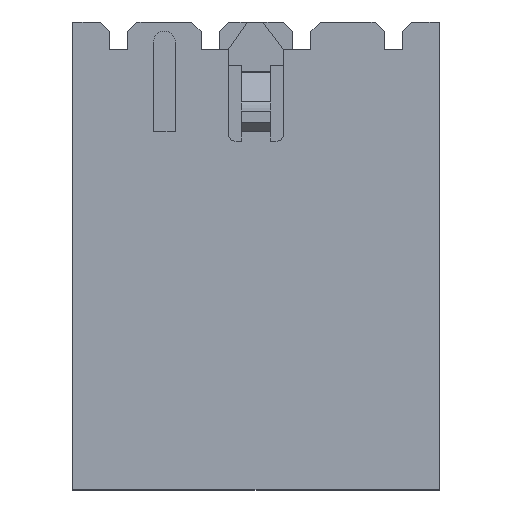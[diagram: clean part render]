
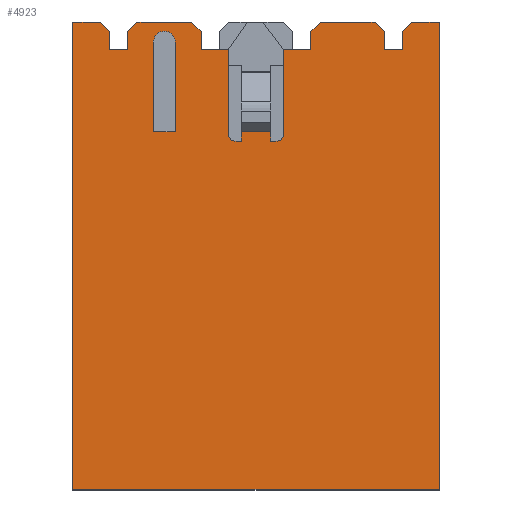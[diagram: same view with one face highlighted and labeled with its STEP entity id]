
A CAD part, front view. The second image highlights one B-rep face of the part: STEP entity #4923.
In plain terms, the highlighted planar face has unit normal (0, -1, 0).
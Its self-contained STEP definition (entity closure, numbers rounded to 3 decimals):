
#46=CIRCLE('',#5182,0.6);
#47=CIRCLE('',#5183,0.35);
#48=CIRCLE('',#5184,0.35);
#231=ORIENTED_EDGE('',*,*,#1710,.T.);
#232=ORIENTED_EDGE('',*,*,#1711,.T.);
#233=ORIENTED_EDGE('',*,*,#1712,.T.);
#234=ORIENTED_EDGE('',*,*,#1713,.T.);
#235=ORIENTED_EDGE('',*,*,#1714,.T.);
#236=ORIENTED_EDGE('',*,*,#1715,.T.);
#237=ORIENTED_EDGE('',*,*,#1716,.T.);
#238=ORIENTED_EDGE('',*,*,#1717,.T.);
#239=ORIENTED_EDGE('',*,*,#1718,.T.);
#240=ORIENTED_EDGE('',*,*,#1719,.T.);
#241=ORIENTED_EDGE('',*,*,#1720,.T.);
#242=ORIENTED_EDGE('',*,*,#1721,.T.);
#243=ORIENTED_EDGE('',*,*,#1722,.T.);
#244=ORIENTED_EDGE('',*,*,#1723,.T.);
#245=ORIENTED_EDGE('',*,*,#1724,.T.);
#246=ORIENTED_EDGE('',*,*,#1725,.T.);
#247=ORIENTED_EDGE('',*,*,#1578,.F.);
#248=ORIENTED_EDGE('',*,*,#1726,.F.);
#249=ORIENTED_EDGE('',*,*,#1727,.T.);
#250=ORIENTED_EDGE('',*,*,#1728,.T.);
#251=ORIENTED_EDGE('',*,*,#1729,.T.);
#252=ORIENTED_EDGE('',*,*,#1730,.T.);
#253=ORIENTED_EDGE('',*,*,#1731,.T.);
#254=ORIENTED_EDGE('',*,*,#1732,.T.);
#255=ORIENTED_EDGE('',*,*,#1733,.T.);
#256=ORIENTED_EDGE('',*,*,#1734,.T.);
#257=ORIENTED_EDGE('',*,*,#1735,.T.);
#258=ORIENTED_EDGE('',*,*,#1736,.T.);
#259=ORIENTED_EDGE('',*,*,#1737,.T.);
#260=ORIENTED_EDGE('',*,*,#1738,.T.);
#261=ORIENTED_EDGE('',*,*,#1739,.T.);
#262=ORIENTED_EDGE('',*,*,#1740,.F.);
#263=ORIENTED_EDGE('',*,*,#1741,.T.);
#264=ORIENTED_EDGE('',*,*,#1742,.T.);
#265=ORIENTED_EDGE('',*,*,#1743,.T.);
#266=ORIENTED_EDGE('',*,*,#1744,.T.);
#1578=EDGE_CURVE('',#2324,#2325,#2806,.T.);
#1710=EDGE_CURVE('',#2443,#2444,#2932,.T.);
#1711=EDGE_CURVE('',#2444,#2445,#2933,.T.);
#1712=EDGE_CURVE('',#2445,#2446,#46,.T.);
#1713=EDGE_CURVE('',#2446,#2443,#2934,.T.);
#1714=EDGE_CURVE('',#2447,#2448,#2935,.T.);
#1715=EDGE_CURVE('',#2448,#2449,#2936,.T.);
#1716=EDGE_CURVE('',#2449,#2450,#2937,.T.);
#1717=EDGE_CURVE('',#2450,#2451,#2938,.T.);
#1718=EDGE_CURVE('',#2451,#2452,#2939,.T.);
#1719=EDGE_CURVE('',#2452,#2453,#2940,.T.);
#1720=EDGE_CURVE('',#2453,#2454,#2941,.T.);
#1721=EDGE_CURVE('',#2454,#2455,#2942,.T.);
#1722=EDGE_CURVE('',#2455,#2456,#2943,.T.);
#1723=EDGE_CURVE('',#2456,#2457,#2944,.T.);
#1724=EDGE_CURVE('',#2457,#2458,#2945,.T.);
#1725=EDGE_CURVE('',#2458,#2325,#2946,.T.);
#1726=EDGE_CURVE('',#2459,#2324,#2947,.T.);
#1727=EDGE_CURVE('',#2459,#2460,#2948,.T.);
#1728=EDGE_CURVE('',#2460,#2461,#2949,.T.);
#1729=EDGE_CURVE('',#2461,#2462,#2950,.T.);
#1730=EDGE_CURVE('',#2462,#2463,#2951,.T.);
#1731=EDGE_CURVE('',#2463,#2464,#2952,.T.);
#1732=EDGE_CURVE('',#2464,#2465,#2953,.T.);
#1733=EDGE_CURVE('',#2465,#2466,#2954,.T.);
#1734=EDGE_CURVE('',#2466,#2467,#2955,.T.);
#1735=EDGE_CURVE('',#2467,#2468,#2956,.T.);
#1736=EDGE_CURVE('',#2468,#2469,#2957,.T.);
#1737=EDGE_CURVE('',#2469,#2470,#2958,.T.);
#1738=EDGE_CURVE('',#2470,#2471,#47,.T.);
#1739=EDGE_CURVE('',#2471,#2472,#2959,.T.);
#1740=EDGE_CURVE('',#2473,#2472,#2960,.T.);
#1741=EDGE_CURVE('',#2473,#2474,#2961,.T.);
#1742=EDGE_CURVE('',#2474,#2475,#2962,.T.);
#1743=EDGE_CURVE('',#2475,#2476,#2963,.T.);
#1744=EDGE_CURVE('',#2476,#2447,#48,.T.);
#2324=VERTEX_POINT('',#6721);
#2325=VERTEX_POINT('',#6723);
#2443=VERTEX_POINT('',#6990);
#2444=VERTEX_POINT('',#6991);
#2445=VERTEX_POINT('',#6993);
#2446=VERTEX_POINT('',#6995);
#2447=VERTEX_POINT('',#6998);
#2448=VERTEX_POINT('',#6999);
#2449=VERTEX_POINT('',#7001);
#2450=VERTEX_POINT('',#7003);
#2451=VERTEX_POINT('',#7005);
#2452=VERTEX_POINT('',#7007);
#2453=VERTEX_POINT('',#7009);
#2454=VERTEX_POINT('',#7011);
#2455=VERTEX_POINT('',#7013);
#2456=VERTEX_POINT('',#7015);
#2457=VERTEX_POINT('',#7017);
#2458=VERTEX_POINT('',#7019);
#2459=VERTEX_POINT('',#7022);
#2460=VERTEX_POINT('',#7024);
#2461=VERTEX_POINT('',#7026);
#2462=VERTEX_POINT('',#7028);
#2463=VERTEX_POINT('',#7030);
#2464=VERTEX_POINT('',#7032);
#2465=VERTEX_POINT('',#7034);
#2466=VERTEX_POINT('',#7036);
#2467=VERTEX_POINT('',#7038);
#2468=VERTEX_POINT('',#7040);
#2469=VERTEX_POINT('',#7042);
#2470=VERTEX_POINT('',#7044);
#2471=VERTEX_POINT('',#7046);
#2472=VERTEX_POINT('',#7048);
#2473=VERTEX_POINT('',#7050);
#2474=VERTEX_POINT('',#7052);
#2475=VERTEX_POINT('',#7054);
#2476=VERTEX_POINT('',#7056);
#2806=LINE('',#6722,#3511);
#2932=LINE('',#6989,#3637);
#2933=LINE('',#6992,#3638);
#2934=LINE('',#6996,#3639);
#2935=LINE('',#6997,#3640);
#2936=LINE('',#7000,#3641);
#2937=LINE('',#7002,#3642);
#2938=LINE('',#7004,#3643);
#2939=LINE('',#7006,#3644);
#2940=LINE('',#7008,#3645);
#2941=LINE('',#7010,#3646);
#2942=LINE('',#7012,#3647);
#2943=LINE('',#7014,#3648);
#2944=LINE('',#7016,#3649);
#2945=LINE('',#7018,#3650);
#2946=LINE('',#7020,#3651);
#2947=LINE('',#7021,#3652);
#2948=LINE('',#7023,#3653);
#2949=LINE('',#7025,#3654);
#2950=LINE('',#7027,#3655);
#2951=LINE('',#7029,#3656);
#2952=LINE('',#7031,#3657);
#2953=LINE('',#7033,#3658);
#2954=LINE('',#7035,#3659);
#2955=LINE('',#7037,#3660);
#2956=LINE('',#7039,#3661);
#2957=LINE('',#7041,#3662);
#2958=LINE('',#7043,#3663);
#2959=LINE('',#7047,#3664);
#2960=LINE('',#7049,#3665);
#2961=LINE('',#7051,#3666);
#2962=LINE('',#7053,#3667);
#2963=LINE('',#7055,#3668);
#3511=VECTOR('',#5451,1000.);
#3637=VECTOR('',#5623,1000.);
#3638=VECTOR('',#5624,1000.);
#3639=VECTOR('',#5627,1000.);
#3640=VECTOR('',#5628,1000.);
#3641=VECTOR('',#5629,1000.);
#3642=VECTOR('',#5630,1000.);
#3643=VECTOR('',#5631,1000.);
#3644=VECTOR('',#5632,1000.);
#3645=VECTOR('',#5633,1000.);
#3646=VECTOR('',#5634,1000.);
#3647=VECTOR('',#5635,1000.);
#3648=VECTOR('',#5636,1000.);
#3649=VECTOR('',#5637,1000.);
#3650=VECTOR('',#5638,1000.);
#3651=VECTOR('',#5639,1000.);
#3652=VECTOR('',#5640,1000.);
#3653=VECTOR('',#5641,1000.);
#3654=VECTOR('',#5642,1000.);
#3655=VECTOR('',#5643,1000.);
#3656=VECTOR('',#5644,1000.);
#3657=VECTOR('',#5645,1000.);
#3658=VECTOR('',#5646,1000.);
#3659=VECTOR('',#5647,1000.);
#3660=VECTOR('',#5648,1000.);
#3661=VECTOR('',#5649,1000.);
#3662=VECTOR('',#5650,1000.);
#3663=VECTOR('',#5651,1000.);
#3664=VECTOR('',#5654,1000.);
#3665=VECTOR('',#5655,1000.);
#3666=VECTOR('',#5656,1000.);
#3667=VECTOR('',#5657,1000.);
#3668=VECTOR('',#5658,1000.);
#4224=EDGE_LOOP('',(#231,#232,#233,#234));
#4225=EDGE_LOOP('',(#235,#236,#237,#238,#239,#240,#241,#242,#243,#244,#245,
#246,#247,#248,#249,#250,#251,#252,#253,#254,#255,#256,#257,#258,#259,#260,
#261,#262,#263,#264,#265,#266));
#4462=FACE_BOUND('',#4224,.T.);
#4463=FACE_BOUND('',#4225,.T.);
#4700=PLANE('',#5181);
#4923=ADVANCED_FACE('',(#4462,#4463),#4700,.F.);
#5181=AXIS2_PLACEMENT_3D('',#6988,#5621,#5622);
#5182=AXIS2_PLACEMENT_3D('',#6994,#5625,#5626);
#5183=AXIS2_PLACEMENT_3D('',#7045,#5652,#5653);
#5184=AXIS2_PLACEMENT_3D('',#7057,#5659,#5660);
#5451=DIRECTION('',(-1.,0.,0.));
#5621=DIRECTION('',(0.,1.,0.));
#5622=DIRECTION('',(0.,0.,1.));
#5623=DIRECTION('',(-1.,0.,0.));
#5624=DIRECTION('',(0.,0.,1.));
#5625=DIRECTION('',(0.,1.,0.));
#5626=DIRECTION('',(1.,0.,0.));
#5627=DIRECTION('',(0.,0.,-1.));
#5628=DIRECTION('',(0.,0.,1.));
#5629=DIRECTION('',(-1.,0.,0.));
#5630=DIRECTION('',(0.,0.,1.));
#5631=DIRECTION('',(-0.707,0.,0.707));
#5632=DIRECTION('',(-1.,0.,0.));
#5633=DIRECTION('',(-0.707,0.,-0.707));
#5634=DIRECTION('',(0.,0.,-1.));
#5635=DIRECTION('',(-1.,0.,0.));
#5636=DIRECTION('',(0.,0.,1.));
#5637=DIRECTION('',(-0.707,0.,0.707));
#5638=DIRECTION('',(-1.,0.,0.));
#5639=DIRECTION('',(0.,0.,-1.));
#5640=DIRECTION('',(0.,0.,-1.));
#5641=DIRECTION('',(-1.,0.,0.));
#5642=DIRECTION('',(-0.707,0.,-0.707));
#5643=DIRECTION('',(0.,0.,-1.));
#5644=DIRECTION('',(-1.,0.,0.));
#5645=DIRECTION('',(0.,0.,1.));
#5646=DIRECTION('',(-0.707,0.,0.707));
#5647=DIRECTION('',(-1.,0.,0.));
#5648=DIRECTION('',(-0.707,0.,-0.707));
#5649=DIRECTION('',(0.,0.,-1.));
#5650=DIRECTION('',(-1.,0.,0.));
#5651=DIRECTION('',(0.,0.,-1.));
#5652=DIRECTION('',(0.,1.,0.));
#5653=DIRECTION('',(1.,0.,0.));
#5654=DIRECTION('',(-1.,0.,0.));
#5655=DIRECTION('',(0.,0.,-1.));
#5656=DIRECTION('',(-1.,0.,0.));
#5657=DIRECTION('',(0.,0.,-1.));
#5658=DIRECTION('',(-1.,0.,0.));
#5659=DIRECTION('',(0.,1.,0.));
#5660=DIRECTION('',(1.,0.,0.));
#6721=CARTESIAN_POINT('',(10.,0.,0.));
#6722=CARTESIAN_POINT('',(10.,0.,0.));
#6723=CARTESIAN_POINT('',(-10.,0.,0.));
#6988=CARTESIAN_POINT('',(10.,0.,25.5));
#6989=CARTESIAN_POINT('',(-4.4,0.,19.5));
#6990=CARTESIAN_POINT('',(-4.4,0.,19.5));
#6991=CARTESIAN_POINT('',(-5.6,0.,19.5));
#6992=CARTESIAN_POINT('',(-5.6,0.,19.5));
#6993=CARTESIAN_POINT('',(-5.6,0.,24.4));
#6994=CARTESIAN_POINT('',(-5.,0.,24.4));
#6995=CARTESIAN_POINT('',(-4.4,0.,24.4));
#6996=CARTESIAN_POINT('',(-4.4,0.,24.4));
#6997=CARTESIAN_POINT('',(-1.5,0.,19.35));
#6998=CARTESIAN_POINT('',(-1.5,0.,19.35));
#6999=CARTESIAN_POINT('',(-1.5,0.,24.));
#7000=CARTESIAN_POINT('',(-2.,0.,24.));
#7001=CARTESIAN_POINT('',(-3.,0.,24.));
#7002=CARTESIAN_POINT('',(-3.,0.,24.));
#7003=CARTESIAN_POINT('',(-3.,0.,25.));
#7004=CARTESIAN_POINT('',(-3.,0.,25.));
#7005=CARTESIAN_POINT('',(-3.5,0.,25.5));
#7006=CARTESIAN_POINT('',(10.,0.,25.5));
#7007=CARTESIAN_POINT('',(-6.5,0.,25.5));
#7008=CARTESIAN_POINT('',(-6.5,0.,25.5));
#7009=CARTESIAN_POINT('',(-7.,0.,25.));
#7010=CARTESIAN_POINT('',(-7.,0.,25.));
#7011=CARTESIAN_POINT('',(-7.,0.,24.));
#7012=CARTESIAN_POINT('',(-7.,0.,24.));
#7013=CARTESIAN_POINT('',(-8.,0.,24.));
#7014=CARTESIAN_POINT('',(-8.,0.,24.));
#7015=CARTESIAN_POINT('',(-8.,0.,25.));
#7016=CARTESIAN_POINT('',(-8.,0.,25.));
#7017=CARTESIAN_POINT('',(-8.5,0.,25.5));
#7018=CARTESIAN_POINT('',(10.,0.,25.5));
#7019=CARTESIAN_POINT('',(-10.,0.,25.5));
#7020=CARTESIAN_POINT('',(-10.,0.,25.5));
#7021=CARTESIAN_POINT('',(10.,0.,25.5));
#7022=CARTESIAN_POINT('',(10.,0.,25.5));
#7023=CARTESIAN_POINT('',(10.,0.,25.5));
#7024=CARTESIAN_POINT('',(8.5,0.,25.5));
#7025=CARTESIAN_POINT('',(8.5,0.,25.5));
#7026=CARTESIAN_POINT('',(8.,0.,25.));
#7027=CARTESIAN_POINT('',(8.,0.,25.));
#7028=CARTESIAN_POINT('',(8.,0.,24.));
#7029=CARTESIAN_POINT('',(8.,0.,24.));
#7030=CARTESIAN_POINT('',(7.,0.,24.));
#7031=CARTESIAN_POINT('',(7.,0.,24.));
#7032=CARTESIAN_POINT('',(7.,0.,25.));
#7033=CARTESIAN_POINT('',(7.,0.,25.));
#7034=CARTESIAN_POINT('',(6.5,0.,25.5));
#7035=CARTESIAN_POINT('',(10.,0.,25.5));
#7036=CARTESIAN_POINT('',(3.5,0.,25.5));
#7037=CARTESIAN_POINT('',(3.5,0.,25.5));
#7038=CARTESIAN_POINT('',(3.,0.,25.));
#7039=CARTESIAN_POINT('',(3.,0.,25.));
#7040=CARTESIAN_POINT('',(3.,0.,24.));
#7041=CARTESIAN_POINT('',(3.,0.,24.));
#7042=CARTESIAN_POINT('',(1.5,0.,24.));
#7043=CARTESIAN_POINT('',(1.5,0.,24.));
#7044=CARTESIAN_POINT('',(1.5,0.,19.35));
#7045=CARTESIAN_POINT('',(1.15,0.,19.35));
#7046=CARTESIAN_POINT('',(1.15,0.,19.));
#7047=CARTESIAN_POINT('',(1.15,0.,19.));
#7048=CARTESIAN_POINT('',(0.8,0.,19.));
#7049=CARTESIAN_POINT('',(0.8,0.,19.5));
#7050=CARTESIAN_POINT('',(0.8,0.,19.5));
#7051=CARTESIAN_POINT('',(0.8,0.,19.5));
#7052=CARTESIAN_POINT('',(-0.8,0.,19.5));
#7053=CARTESIAN_POINT('',(-0.8,0.,19.5));
#7054=CARTESIAN_POINT('',(-0.8,0.,19.));
#7055=CARTESIAN_POINT('',(1.15,0.,19.));
#7056=CARTESIAN_POINT('',(-1.15,0.,19.));
#7057=CARTESIAN_POINT('',(-1.15,0.,19.35));
